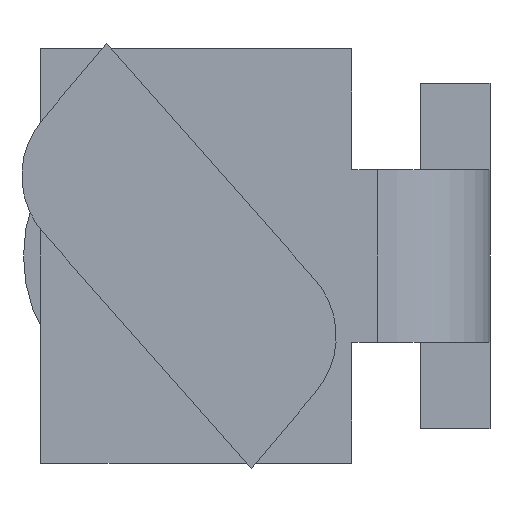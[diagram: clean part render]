
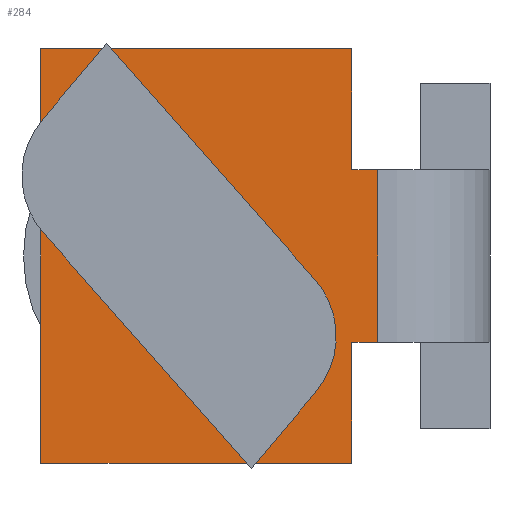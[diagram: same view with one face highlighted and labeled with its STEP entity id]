
A CAD part, front view. The second image highlights one B-rep face of the part: STEP entity #284.
In plain terms, the highlighted planar face has unit normal (0, -1, 0).
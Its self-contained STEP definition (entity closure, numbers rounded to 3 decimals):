
#284 = ADVANCED_FACE ( 'NONE', ( #1176, #1183 ), #1644, .F. ) ;
#554 = EDGE_CURVE ( 'NONE', #1332, #1327, #682, .T. ) ;
#562 = EDGE_CURVE ( 'NONE', #1400, #1399, #672, .T. ) ;
#565 = EDGE_CURVE ( 'NONE', #1392, #1385, #659, .T. ) ;
#567 = EDGE_CURVE ( 'NONE', #1327, #1332, #657, .T. ) ;
#568 = EDGE_CURVE ( 'NONE', #1385, #1414, #653, .T. ) ;
#569 = EDGE_CURVE ( 'NONE', #1347, #1414, #652, .T. ) ;
#570 = EDGE_CURVE ( 'NONE', #1347, #1388, #655, .T. ) ;
#571 = EDGE_CURVE ( 'NONE', #1333, #1388, #648, .T. ) ;
#572 = EDGE_CURVE ( 'NONE', #1399, #1333, #650, .T. ) ;
#573 = EDGE_CURVE ( 'NONE', #1400, #1392, #644, .T. ) ;
#641 = VECTOR ( 'NONE', #2662, 1000. ) ;
#643 = VECTOR ( 'NONE', #2660, 1000. ) ;
#644 = LINE ( 'NONE', #2661, #641 ) ;
#645 = VECTOR ( 'NONE', #2659, 1000. ) ;
#647 = VECTOR ( 'NONE', #2656, 1000. ) ;
#648 = LINE ( 'NONE', #2657, #645 ) ;
#649 = VECTOR ( 'NONE', #2655, 1000. ) ;
#650 = LINE ( 'NONE', #2648, #643 ) ;
#651 = VECTOR ( 'NONE', #2644, 1000. ) ;
#652 = LINE ( 'NONE', #2653, #649 ) ;
#653 = LINE ( 'NONE', #2647, #651 ) ;
#655 = LINE ( 'NONE', #2649, #647 ) ;
#656 = VECTOR ( 'NONE', #2645, 1000. ) ;
#657 = CIRCLE ( 'NONE', #2309, 4.5 ) ;
#659 = LINE ( 'NONE', #2643, #656 ) ;
#662 = VECTOR ( 'NONE', #2639, 1000. ) ;
#672 = LINE ( 'NONE', #2635, #662 ) ;
#682 = CIRCLE ( 'NONE', #2303, 4.5 ) ;
#883 = ORIENTED_EDGE ( 'NONE', *, *, #573, .T. ) ;
#890 = ORIENTED_EDGE ( 'NONE', *, *, #569, .F. ) ;
#897 = ORIENTED_EDGE ( 'NONE', *, *, #570, .T. ) ;
#904 = ORIENTED_EDGE ( 'NONE', *, *, #571, .F. ) ;
#905 = ORIENTED_EDGE ( 'NONE', *, *, #572, .F. ) ;
#912 = ORIENTED_EDGE ( 'NONE', *, *, #562, .F. ) ;
#919 = ORIENTED_EDGE ( 'NONE', *, *, #568, .T. ) ;
#920 = ORIENTED_EDGE ( 'NONE', *, *, #565, .T. ) ;
#921 = ORIENTED_EDGE ( 'NONE', *, *, #554, .T. ) ;
#922 = ORIENTED_EDGE ( 'NONE', *, *, #567, .T. ) ;
#1176 = FACE_BOUND ( 'NONE', #1878, .T. ) ;
#1183 = FACE_OUTER_BOUND ( 'NONE', #1875, .T. ) ;
#1327 = VERTEX_POINT ( 'NONE', #2733 ) ;
#1332 = VERTEX_POINT ( 'NONE', #2735 ) ;
#1333 = VERTEX_POINT ( 'NONE', #2736 ) ;
#1347 = VERTEX_POINT ( 'NONE', #2748 ) ;
#1385 = VERTEX_POINT ( 'NONE', #2783 ) ;
#1388 = VERTEX_POINT ( 'NONE', #2786 ) ;
#1392 = VERTEX_POINT ( 'NONE', #2790 ) ;
#1399 = VERTEX_POINT ( 'NONE', #2795 ) ;
#1400 = VERTEX_POINT ( 'NONE', #2796 ) ;
#1414 = VERTEX_POINT ( 'NONE', #2808 ) ;
#1639 = DIRECTION ( 'NONE',  ( 0., 1., 0. ) ) ;
#1642 = CARTESIAN_POINT ( 'NONE',  ( 0., 0., 10. ) ) ;
#1644 = PLANE ( 'NONE',  #2085 ) ;
#1646 = DIRECTION ( 'NONE',  ( 0., 0., 1. ) ) ;
#1875 = EDGE_LOOP ( 'NONE', ( #920, #919, #890, #897, #904, #905, #912, #883 ) ) ;
#1878 = EDGE_LOOP ( 'NONE', ( #922, #921 ) ) ;
#2085 = AXIS2_PLACEMENT_3D ( 'NONE', #1642, #1639, #1646 ) ;
#2303 = AXIS2_PLACEMENT_3D ( 'NONE', #2616, #2617, #2618 ) ;
#2309 = AXIS2_PLACEMENT_3D ( 'NONE', #2650, #2651, #2652 ) ;
#2616 = CARTESIAN_POINT ( 'NONE',  ( 8., 0., 0. ) ) ;
#2617 = DIRECTION ( 'NONE',  ( 0., 1., 0. ) ) ;
#2618 = DIRECTION ( 'NONE',  ( 0., 0., 1. ) ) ;
#2635 = CARTESIAN_POINT ( 'NONE',  ( 18., 0., 10. ) ) ;
#2639 = DIRECTION ( 'NONE',  ( 0., 0., -1. ) ) ;
#2643 = CARTESIAN_POINT ( 'NONE',  ( 0., 0., 10. ) ) ;
#2644 = DIRECTION ( 'NONE',  ( 1., 0., 0. ) ) ;
#2645 = DIRECTION ( 'NONE',  ( 0., 0., -1. ) ) ;
#2647 = CARTESIAN_POINT ( 'NONE',  ( 18., 0., -12. ) ) ;
#2648 = CARTESIAN_POINT ( 'NONE',  ( 18., 0., 5. ) ) ;
#2649 = CARTESIAN_POINT ( 'NONE',  ( 18., 0., -5. ) ) ;
#2650 = CARTESIAN_POINT ( 'NONE',  ( 8., 0., 0. ) ) ;
#2651 = DIRECTION ( 'NONE',  ( 0., 1., 0. ) ) ;
#2652 = DIRECTION ( 'NONE',  ( 0., 0., 1. ) ) ;
#2653 = CARTESIAN_POINT ( 'NONE',  ( 18., 0., 10. ) ) ;
#2655 = DIRECTION ( 'NONE',  ( 0., 0., -1. ) ) ;
#2656 = DIRECTION ( 'NONE',  ( 1., 0., 0. ) ) ;
#2657 = CARTESIAN_POINT ( 'NONE',  ( 19.5, 0., 5. ) ) ;
#2659 = DIRECTION ( 'NONE',  ( 0., 0., -1. ) ) ;
#2660 = DIRECTION ( 'NONE',  ( 1., 0., 0. ) ) ;
#2661 = CARTESIAN_POINT ( 'NONE',  ( 0., 0., 12. ) ) ;
#2662 = DIRECTION ( 'NONE',  ( -1., 0., 0. ) ) ;
#2733 = CARTESIAN_POINT ( 'NONE',  ( 8., 0., 4.5 ) ) ;
#2735 = CARTESIAN_POINT ( 'NONE',  ( 8., 0., -4.5 ) ) ;
#2736 = CARTESIAN_POINT ( 'NONE',  ( 19.5, 0., 5. ) ) ;
#2748 = CARTESIAN_POINT ( 'NONE',  ( 18., 0., -5. ) ) ;
#2783 = CARTESIAN_POINT ( 'NONE',  ( 0., 0., -12. ) ) ;
#2786 = CARTESIAN_POINT ( 'NONE',  ( 19.5, 0., -5. ) ) ;
#2790 = CARTESIAN_POINT ( 'NONE',  ( 0., 0., 12. ) ) ;
#2795 = CARTESIAN_POINT ( 'NONE',  ( 18., 0., 5. ) ) ;
#2796 = CARTESIAN_POINT ( 'NONE',  ( 18., 0., 12. ) ) ;
#2808 = CARTESIAN_POINT ( 'NONE',  ( 18., 0., -12. ) ) ;
